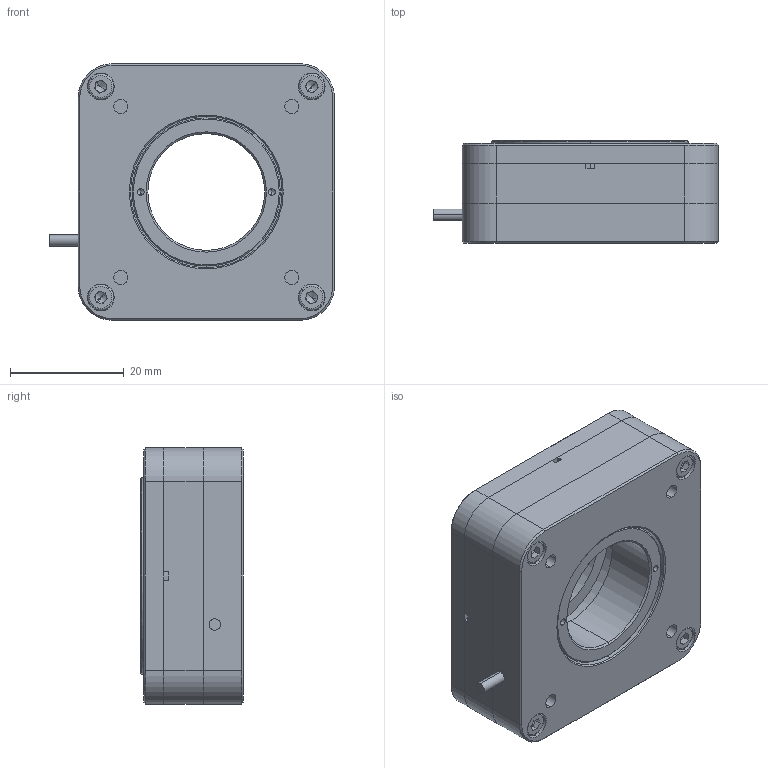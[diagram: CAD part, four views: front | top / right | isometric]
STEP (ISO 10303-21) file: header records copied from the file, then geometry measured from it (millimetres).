
FILE_DESCRIPTION (( 'STEP AP214' ), '1' );
FILE_NAME ('空间应用旋转压电马达(标准简化版）.STEP', '2024-02-05T06:19:54', ( 'Sky123.Org' ), ( 'Sky123.Org' ), 'SwSTEP 2.0', 'SolidWorks 2016', '' );
FILE_SCHEMA (( 'AUTOMOTIVE_DESIGN' ));
Length unit declared in the file: millimetre
Products named in the file (1): 空间应用旋转压电马达(标准简化版）
Bounding box: 50 x 18 x 45 mm (x, y, z)
Volume: 26211.8 mm3; surface area: 19146.8 mm2
Topology: 14 solids, 14 shells, 1551 faces, 4159 edges, 2738 vertices
Faces by surface type: plane 1142, cylinder 177, bspline 166, cone 50, torus 16
Entity records: 87949 total; most frequent: CARTESIAN_POINT 32949, ORIENTED_EDGE 8294, DIRECTION 7045, EDGE_CURVE 4147, VERTEX_POINT 2738, VECTOR 2621, LINE 2621, AXIS2_PLACEMENT_3D 2212
